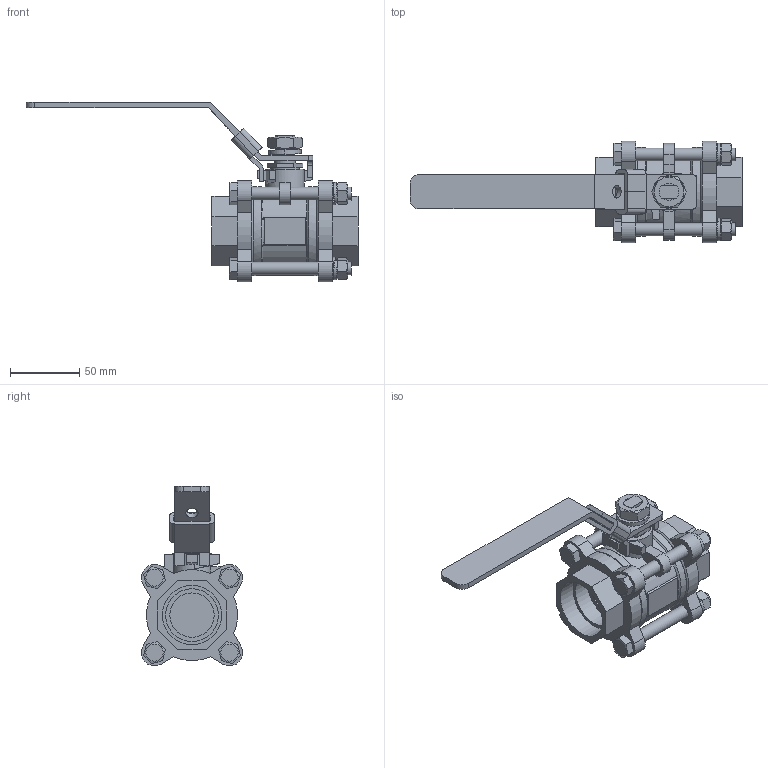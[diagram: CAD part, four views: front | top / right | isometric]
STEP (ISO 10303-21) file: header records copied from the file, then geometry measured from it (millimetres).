
FILE_DESCRIPTION((' '),'2;1');
FILE_NAME('N:\Technical Support\Private\Jomar Valve CAD\Ball Valves\CS and SS\1000N-4B\1.25 S-CS[SS]-1000N-4B (500-506 [500-346]) FusionCopy.stp.step','2016-07-05T11:52:31',(' '),(' '),' ','ACIS',' ');
FILE_SCHEMA(('CONFIG_CONTROL_DESIGN'));
Length unit declared in the file: inch
Products named in the file (22): N:\Technical Support\Private\Jomar Valve CAD\Ball Valves\CS and SS\1000N-4B\1.25 S-CS[SS]-1000N-4B (500-506 [500-346]) FusionCopy.stp.step; Body1; Body2; Body3; Body4; Body5; Body6; Body7; Body8; Body9; Body10; Body11; Body12; Body13; Body14; Body15; Body16; Body17; Body18; Body19; Body20; Body21
Assembly tree (21 placements, depth 2):
  N:\Technical Support\Private\Jomar Valve CAD\Ball Valves\CS and SS\1000N-4B\1.25 S-CS[SS]-1000N-4B (500-506 [500-346]) FusionCopy.stp.step
    Body1
    Body2
    Body3
    Body4
    Body5
    Body6
    Body7
    Body8
    Body9
    Body10
    Body11
    Body12
    Body13
    Body14
    Body15
    Body16
    Body17
    Body18
    Body19
    Body20
    Body21
Bounding box: 238.93 x 72.91 x 129.23 mm (x, y, z)
Volume: 315127.1 mm3; surface area: 94226.7 mm2
Topology: 21 solids, 21 shells, 375 faces, 947 edges, 612 vertices
Faces by surface type: plane 168, bspline 123, cylinder 50, cone 34
Full cylindrical faces by diameter (mm): 8.103 x2, 8.966 x1, 9.296 x2, 10.795 x2, 10.897 x4, 12.344 x1, 14.986 x1, 15.367 x1, 20.701 x1, 28.042 x1, 31.877 x1, 37.973 x1, 42.672 x1, 64.059 x2
Entity records: 14421 total; most frequent: CARTESIAN_POINT 3082, ORIENTED_EDGE 1728, DIRECTION 1585, EDGE_CURVE 864, VERTEX_POINT 577, VECTOR 533, LINE 533, AXIS2_PLACEMENT_3D 526
